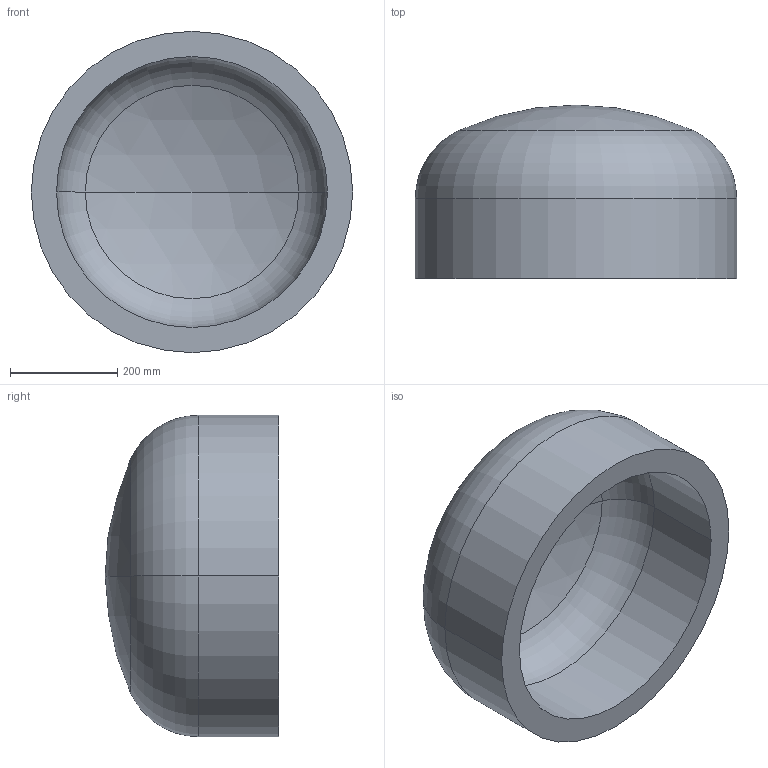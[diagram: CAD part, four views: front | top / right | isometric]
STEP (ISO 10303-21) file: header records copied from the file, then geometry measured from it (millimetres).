
FILE_DESCRIPTION (( 'STEP AP203' ), '1' );
FILE_NAME ('DIN 28013 Korbbogenform_-_Boden DIN 28013 - 600 x 150 - I - s=47.step', '2016-07-01T08:01:11', ( '' ), ( '' ), 'SwSTEP 2.0', 'SolidWorks 2013', '' );
FILE_SCHEMA (( 'CONFIG_CONTROL_DESIGN' ));
Length unit declared in the file: millimetre
Products named in the file (1): DIN 28013 Korbbogenform_-_Boden DIN 28013 - 600 x 150 - I - s=47
Bounding box: 600 x 323.98 x 600 mm (x, y, z)
Volume: 28912305.6 mm3; surface area: 1316590.4 mm2
Topology: 1 solids, 1 shells, 13 faces, 24 edges, 14 vertices
Faces by surface type: torus 4, cylinder 4, sphere 4, plane 1
Entity records: 407 total; most frequent: DIRECTION 72, CARTESIAN_POINT 52, ORIENTED_EDGE 48, AXIS2_PLACEMENT_3D 34, EDGE_CURVE 24, CIRCLE 20, EDGE_LOOP 14, VERTEX_POINT 14
